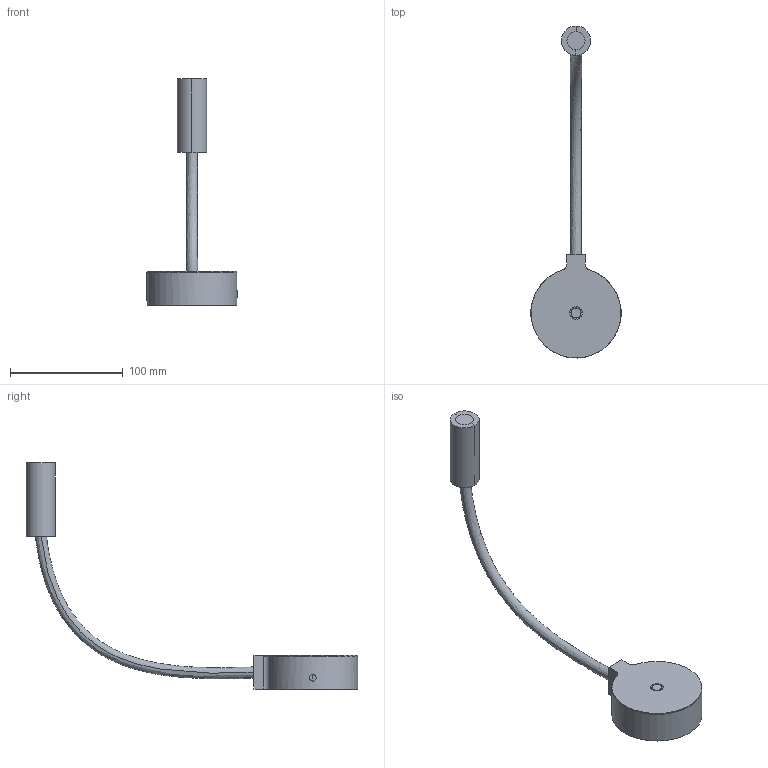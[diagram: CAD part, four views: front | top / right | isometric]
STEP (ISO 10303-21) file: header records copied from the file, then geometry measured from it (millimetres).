
FILE_DESCRIPTION(/* description */ (''),/* implementation_level */ '2;1');
FILE_NAME(/* name */ '41026.step',/* time_stamp */ '2024-06-19T11:20:25+02:00',/* author */ ('RenataManzini'),/* organization */ (''),/* preprocessor_version */ 'ST-DEVELOPER v20',/* originating_system */ 'AutoCAD Mechanical',/* authorisation */ '');
FILE_SCHEMA (('AUTOMOTIVE_DESIGN { 1 0 10303 214 3 1 1 }'));
Length unit declared in the file: millimetre
Products named in the file (2): Product; PIXIE_APLIQUE - LESER-488774-Export
Assembly tree (1 placements, depth 2):
  Product
    PIXIE_APLIQUE - LESER-488774-Export
Bounding box: 80.22 x 294.51 x 200.75 mm (x, y, z)
Volume: 79641.5 mm3; surface area: 46748.7 mm2
Topology: 9 solids, 9 shells, 90 faces, 188 edges, 119 vertices
Faces by surface type: plane 45, cylinder 37, cone 6, bspline 2
Entity records: 2877 total; most frequent: CARTESIAN_POINT 875, DIRECTION 424, ORIENTED_EDGE 370, EDGE_CURVE 185, AXIS2_PLACEMENT_3D 158, VERTEX_POINT 114, LINE 108, VECTOR 108
